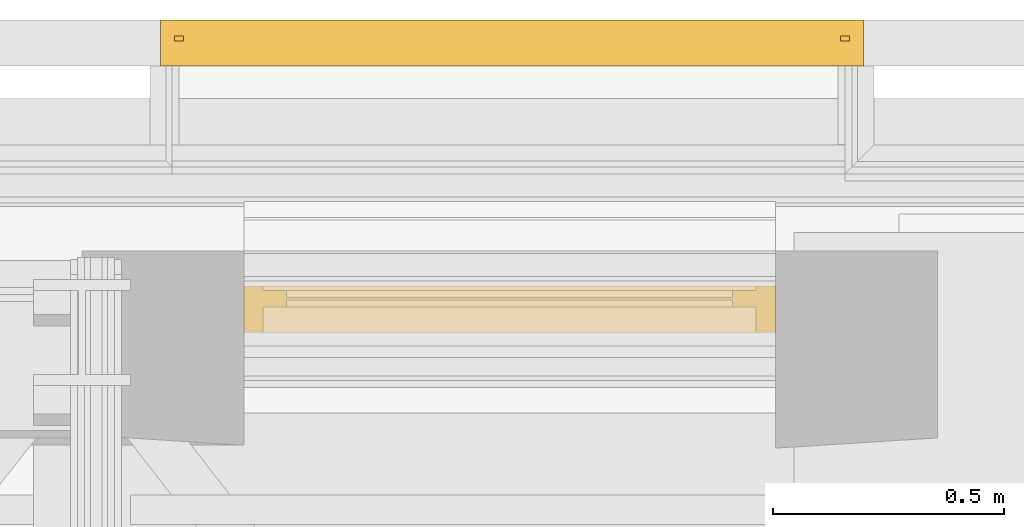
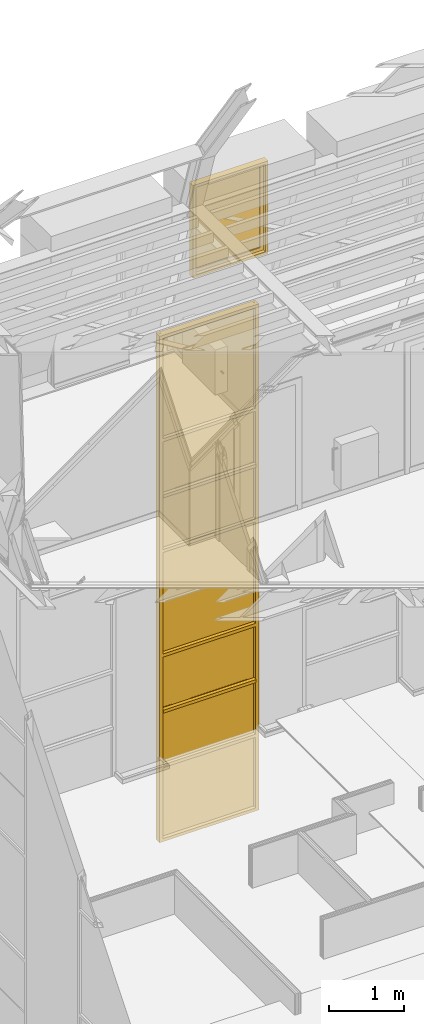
# One storey, part 126 of 183: 1 curtain wall, 1 window.
"""IFC2X3 building model written with IfcOpenShell, lengths in metres."""

from ifc_helpers import new_model, entity, si_unit, converted_unit, derived_unit, money_unit, direction, frame, origin_with_axes, place, context, subcontext, project, spatial, faceted_brep, material, type_object, element, save


model = new_model("IFC2X3")

# Units and contexts
model_context = context("Model", 3, precision=1e-05, world=origin_with_axes(), true_north=direction((0.0, 1.0)))
body_context = subcontext(model_context, "Body", "Model", "MODEL_VIEW", scale=1.0)
ifc_project = project(units=[si_unit("LENGTHUNIT", "METRE"), si_unit("AREAUNIT", "SQUARE_METRE"), si_unit("VOLUMEUNIT", "CUBIC_METRE"), si_unit("ABSORBEDDOSEUNIT", "GRAY"), si_unit("AMOUNTOFSUBSTANCEUNIT", "MOLE"), si_unit("DOSEEQUIVALENTUNIT", "SIEVERT"), si_unit("ELECTRICCAPACITANCEUNIT", "FARAD"), si_unit("ELECTRICCHARGEUNIT", "COULOMB"), si_unit("ELECTRICCONDUCTANCEUNIT", "SIEMENS"), si_unit("ELECTRICCURRENTUNIT", "AMPERE"), si_unit("ELECTRICRESISTANCEUNIT", "OHM"), si_unit("ELECTRICVOLTAGEUNIT", "VOLT"), si_unit("ENERGYUNIT", "JOULE"), si_unit("FORCEUNIT", "NEWTON"), si_unit("FREQUENCYUNIT", "HERTZ"), si_unit("ILLUMINANCEUNIT", "LUX"), si_unit("INDUCTANCEUNIT", "HENRY"), si_unit("LUMINOUSFLUXUNIT", "LUMEN"), si_unit("LUMINOUSINTENSITYUNIT", "CANDELA"), si_unit("MAGNETICFLUXDENSITYUNIT", "TESLA"), si_unit("MAGNETICFLUXUNIT", "WEBER"), si_unit("MASSUNIT", "GRAM"), converted_unit("PLANEANGLEUNIT", "degree", entity("IfcReal", 0.0174532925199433), si_unit("PLANEANGLEUNIT", "RADIAN"), dimensions=[0, 0, 0, 0, 0, 0, 0]), si_unit("POWERUNIT", "WATT"), si_unit("PRESSUREUNIT", "PASCAL"), si_unit("RADIOACTIVITYUNIT", "BECQUEREL"), si_unit("SOLIDANGLEUNIT", "STERADIAN"), si_unit("THERMODYNAMICTEMPERATUREUNIT", "KELVIN"), si_unit("TIMEUNIT", "SECOND"), derived_unit("ACCELERATIONUNIT", [(si_unit("LENGTHUNIT", "METRE"), 1), (si_unit("TIMEUNIT", "SECOND"), -2)]), derived_unit("ANGULARVELOCITYUNIT", [(converted_unit("PLANEANGLEUNIT", "degree", entity("IfcReal", 0.0174532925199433), si_unit("PLANEANGLEUNIT", "RADIAN"), dimensions=[0, 0, 0, 0, 0, 0, 0]), 1), (si_unit("TIMEUNIT", "SECOND"), -1)]), derived_unit("CURVATUREUNIT", [(converted_unit("PLANEANGLEUNIT", "degree", entity("IfcReal", 0.0174532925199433), si_unit("PLANEANGLEUNIT", "RADIAN"), dimensions=[0, 0, 0, 0, 0, 0, 0]), 1), (si_unit("LENGTHUNIT", "METRE"), -1)]), derived_unit("DYNAMICVISCOSITYUNIT", [(si_unit("PRESSUREUNIT", "PASCAL"), 1), (si_unit("TIMEUNIT", "SECOND"), 1)]), derived_unit("HEATFLUXDENSITYUNIT", [(si_unit("POWERUNIT", "WATT"), 1), (si_unit("LENGTHUNIT", "METRE"), -2)]), derived_unit("HEATINGVALUEUNIT", [(si_unit("ENERGYUNIT", "JOULE"), 1), (si_unit("MASSUNIT", "GRAM"), -1)]), derived_unit("INTEGERCOUNTRATEUNIT", [(si_unit("TIMEUNIT", "SECOND"), -1)]), derived_unit("IONCONCENTRATIONUNIT", [(si_unit("MASSUNIT", "GRAM"), 1), (si_unit("VOLUMEUNIT", "CUBIC_METRE"), -1)]), derived_unit("ISOTHERMALMOISTURECAPACITYUNIT", [(si_unit("VOLUMEUNIT", "CUBIC_METRE"), 1), (si_unit("MASSUNIT", "GRAM"), -1)]), derived_unit("KINEMATICVISCOSITYUNIT", [(si_unit("AREAUNIT", "SQUARE_METRE"), 1), (si_unit("TIMEUNIT", "SECOND"), -1)]), derived_unit("LINEARFORCEUNIT", [(si_unit("FORCEUNIT", "NEWTON"), 1), (si_unit("LENGTHUNIT", "METRE"), -1)]), derived_unit("LINEARMOMENTUNIT", [(si_unit("FORCEUNIT", "NEWTON"), 1), (si_unit("LENGTHUNIT", "METRE"), -1)]), derived_unit("LINEARSTIFFNESSUNIT", [(si_unit("FORCEUNIT", "NEWTON"), 1), (si_unit("LENGTHUNIT", "METRE"), -1)]), derived_unit("LINEARVELOCITYUNIT", [(si_unit("LENGTHUNIT", "METRE"), 1), (si_unit("TIMEUNIT", "SECOND"), -1)]), derived_unit("LUMINOUSINTENSITYDISTRIBUTIONUNIT", [(si_unit("LUMINOUSINTENSITYUNIT", "CANDELA"), 1), (si_unit("LUMINOUSFLUXUNIT", "LUMEN"), -1)]), derived_unit("MASSDENSITYUNIT", [(si_unit("MASSUNIT", "GRAM"), 1), (si_unit("VOLUMEUNIT", "CUBIC_METRE"), -1)]), derived_unit("MASSFLOWRATEUNIT", [(si_unit("MASSUNIT", "GRAM"), 1), (si_unit("TIMEUNIT", "SECOND"), -1)]), derived_unit("MASSPERLENGTHUNIT", [(si_unit("MASSUNIT", "GRAM"), 1), (si_unit("LENGTHUNIT", "METRE"), -1)]), derived_unit("MODULUSOFELASTICITYUNIT", [(si_unit("FORCEUNIT", "NEWTON"), 1), (si_unit("AREAUNIT", "SQUARE_METRE"), -1)]), derived_unit("MODULUSOFLINEARSUBGRADEREACTIONUNIT", [(si_unit("FORCEUNIT", "NEWTON"), 1), (si_unit("LENGTHUNIT", "METRE"), -2)]), derived_unit("MODULUSOFROTATIONALSUBGRADEREACTIONUNIT", [(si_unit("FORCEUNIT", "NEWTON"), 1), (si_unit("LENGTHUNIT", "METRE"), 1)]), derived_unit("MODULUSOFSUBGRADEREACTIONUNIT", [(si_unit("FORCEUNIT", "NEWTON"), 1), (si_unit("VOLUMEUNIT", "CUBIC_METRE"), -1)]), derived_unit("MOISTUREDIFFUSIVITYUNIT", [(si_unit("VOLUMEUNIT", "CUBIC_METRE"), 1), (si_unit("TIMEUNIT", "SECOND"), -1)]), derived_unit("MOLECULARWEIGHTUNIT", [(si_unit("MASSUNIT", "GRAM"), 1), (si_unit("AMOUNTOFSUBSTANCEUNIT", "MOLE"), -1)]), derived_unit("PLANARFORCEUNIT", [(si_unit("FORCEUNIT", "NEWTON"), 1), (si_unit("LENGTHUNIT", "METRE"), -2)]), derived_unit("ROTATIONALFREQUENCYUNIT", [(si_unit("TIMEUNIT", "SECOND"), -1)]), derived_unit("ROTATIONALMASSUNIT", [(si_unit("MASSUNIT", "GRAM"), 1), (si_unit("LENGTHUNIT", "METRE"), 2)]), derived_unit("ROTATIONALSTIFFNESSUNIT", [(si_unit("FORCEUNIT", "NEWTON"), 1), (si_unit("LENGTHUNIT", "METRE"), 1), (converted_unit("PLANEANGLEUNIT", "degree", entity("IfcReal", 0.0174532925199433), si_unit("PLANEANGLEUNIT", "RADIAN"), dimensions=[0, 0, 0, 0, 0, 0, 0]), -1)]), derived_unit("SECTIONAREAINTEGRALUNIT", [(si_unit("LENGTHUNIT", "METRE"), 5)]), derived_unit("SECTIONMODULUSUNIT", [(si_unit("LENGTHUNIT", "METRE"), 3)]), derived_unit("SHEARMODULUSUNIT", [(si_unit("FORCEUNIT", "NEWTON"), 1), (si_unit("AREAUNIT", "SQUARE_METRE"), -1)]), derived_unit("SOUNDPOWERUNIT", [(si_unit("ENERGYUNIT", "JOULE"), 1), (si_unit("TIMEUNIT", "SECOND"), -1)]), derived_unit("SPECIFICHEATCAPACITYUNIT", [(si_unit("FORCEUNIT", "NEWTON"), 1), (si_unit("MASSUNIT", "GRAM"), -1), (si_unit("THERMODYNAMICTEMPERATUREUNIT", "KELVIN"), -1)]), derived_unit("TEMPERATUREGRADIENTUNIT", [(si_unit("THERMODYNAMICTEMPERATUREUNIT", "KELVIN"), 1), (si_unit("LENGTHUNIT", "METRE"), -1)]), derived_unit("THERMALADMITTANCEUNIT", [(si_unit("POWERUNIT", "WATT"), 1), (si_unit("AREAUNIT", "SQUARE_METRE"), -1), (si_unit("THERMODYNAMICTEMPERATUREUNIT", "KELVIN"), -1)]), derived_unit("THERMALCONDUCTANCEUNIT", [(si_unit("POWERUNIT", "WATT"), 1), (si_unit("LENGTHUNIT", "METRE"), -1), (si_unit("THERMODYNAMICTEMPERATUREUNIT", "KELVIN"), -1)]), derived_unit("THERMALEXPANSIONCOEFFICIENTUNIT", [(si_unit("THERMODYNAMICTEMPERATUREUNIT", "KELVIN"), -1)]), derived_unit("THERMALRESISTANCEUNIT", [(si_unit("AREAUNIT", "SQUARE_METRE"), 1), (si_unit("POWERUNIT", "WATT"), -1)]), derived_unit("THERMALTRANSMITTANCEUNIT", [(si_unit("POWERUNIT", "WATT"), 1), (si_unit("AREAUNIT", "SQUARE_METRE"), -1), (si_unit("THERMODYNAMICTEMPERATUREUNIT", "KELVIN"), -1)]), derived_unit("TORQUEUNIT", [(si_unit("FORCEUNIT", "NEWTON"), 1), (si_unit("LENGTHUNIT", "METRE"), 1)]), derived_unit("VAPORPERMEABILITYUNIT", [(si_unit("MASSUNIT", "GRAM"), 1), (si_unit("TIMEUNIT", "SECOND"), -1)]), derived_unit("VOLUMETRICFLOWRATEUNIT", [(si_unit("VOLUMEUNIT", "CUBIC_METRE"), 1), (si_unit("TIMEUNIT", "SECOND"), -1)]), derived_unit("WARPINGCONSTANTUNIT", [(si_unit("LENGTHUNIT", "METRE"), 6)]), derived_unit("WARPINGMOMENTUNIT", [(si_unit("FORCEUNIT", "NEWTON"), 1), (si_unit("LENGTHUNIT", "METRE"), 2)]), money_unit("GBP")], contexts=[model_context])

# Site, building, storey
site_placement = place(None, origin_with_axes())
site = spatial("IfcSite", under=ifc_project, at=site_placement, Name="Site", CompositionType="ELEMENT")
building_placement = place(site_placement, origin_with_axes())
building = spatial("IfcBuilding", under=site, at=building_placement, Name="Building01", CompositionType="ELEMENT")
storey_placement = place(building_placement, frame((0.0, 0.0, 5.15), z_axis=(0.0, 0.0, 1.0), x_axis=(1.0, 0.0, 0.0)))
storey = spatial("IfcBuildingStorey", under=building, at=storey_placement, Name="1F", CompositionType="ELEMENT", Elevation=5.15)

# Curtain wall
ifc_material_1 = material(Name="A-CurtainWall_Frame")
curtain_wall_type = type_object("IfcCurtainWallType", Name="Pattern - Maximum Spacing", PredefinedType="NOTDEFINED")
curtain_wall_placement = place(storey_placement, frame((0.0, 0.0, -5.15), z_axis=(0.0, 0.0, 1.0), x_axis=(1.0, 0.0, 0.0)))
element("IfcCurtainWall", 1, at=curtain_wall_placement, inside=storey, type_object=curtain_wall_type, material=ifc_material_1, Name="10", ObjectType="Pattern - Maximum Spacing", context=body_context, shape_type="Brep", body=[
    faceted_brep([(6.57, 14.855, 7.716517), (6.57, 14.865, 7.716517), (5.11, 14.865, 7.716517), (5.11, 14.855, 7.716517), (6.57, 14.855, 6.530918), (6.57, 14.865, 6.530918), (5.11, 14.855, 6.530918), (5.11, 14.865, 6.530918)], [[[0, 1, 2, 3]], [[4, 5, 1, 0]], [[6, 7, 5, 4]], [[3, 2, 7, 6]], [[1, 5, 7, 2]], [[3, 6, 4, 0]]]),
    faceted_brep([(5.08, 14.9, 6.500918), (5.13, 14.9, 6.500918), (5.13, 14.865, 6.500918), (5.11, 14.865, 6.500918), (5.11, 14.855, 6.500918), (5.13, 14.855, 6.500918), (5.13, 14.8, 6.500918), (5.08, 14.8, 6.500918), (5.08, 14.8, 7.721517), (5.08, 14.9, 7.721517), (5.13, 14.9, 7.721517), (5.13, 14.865, 7.721517), (5.11, 14.865, 7.721517), (5.11, 14.855, 7.721517), (5.13, 14.855, 7.721517), (5.13, 14.8, 7.721517)], [[[0, 1, 2, 3, 4, 5, 6, 7]], [[7, 8, 9, 0]], [[0, 9, 10, 1]], [[1, 10, 11, 2]], [[2, 11, 12, 3]], [[3, 12, 13, 4]], [[4, 13, 14, 5]], [[5, 14, 15, 6]], [[6, 15, 8, 7]]]),
    faceted_brep([(6.55, 14.9, 6.550918), (6.55, 14.865, 6.550918), (6.55, 14.865, 6.530918), (6.55, 14.855, 6.530918), (6.55, 14.855, 6.550918), (6.55, 14.8, 6.550918), (6.55, 14.8, 6.500918), (6.55, 14.9, 6.500918), (5.13, 14.9, 6.500918), (5.13, 14.9, 6.550918), (5.13, 14.865, 6.550918), (5.13, 14.865, 6.530918), (5.13, 14.855, 6.530918), (5.13, 14.855, 6.550918), (5.13, 14.8, 6.550918), (5.13, 14.8, 6.500918)], [[[0, 1, 2, 3, 4, 5, 6, 7]], [[7, 8, 9, 0]], [[0, 9, 10, 1]], [[1, 10, 11, 2]], [[2, 11, 12, 3]], [[3, 12, 13, 4]], [[4, 13, 14, 5]], [[5, 14, 15, 6]], [[6, 15, 8, 7]], [[8, 15, 14, 13, 12, 11, 10, 9]]]),
    faceted_brep([(6.6, 14.9, 6.500918), (6.6, 14.9, 7.721517), (6.6, 14.8, 7.721517), (6.6, 14.8, 6.500918), (6.55, 14.9, 6.500918), (6.55, 14.9, 7.721517), (6.55, 14.865, 6.500918), (6.55, 14.865, 7.721517), (6.57, 14.865, 6.500918), (6.57, 14.865, 7.721517), (6.57, 14.855, 6.500918), (6.57, 14.855, 7.721517), (6.55, 14.855, 6.500918), (6.55, 14.855, 7.721517), (6.55, 14.8, 6.500918), (6.55, 14.8, 7.721517)], [[[0, 1, 2, 3]], [[4, 5, 1, 0]], [[6, 7, 5, 4]], [[8, 9, 7, 6]], [[10, 11, 9, 8]], [[12, 13, 11, 10]], [[14, 15, 13, 12]], [[3, 2, 15, 14]], [[14, 12, 10, 8, 6, 4, 0, 3]]]),
    faceted_brep([(5.13, 14.855, 7.726517), (5.13, 14.865, 7.726517), (5.13, 14.865, 7.746517), (5.13, 14.9, 7.746517), (5.13, 14.9, 7.696517), (5.13, 14.865, 7.696517), (5.13, 14.865, 7.716517), (5.13, 14.855, 7.716517), (5.13, 14.855, 7.696517), (5.13, 14.8, 7.696517), (5.13, 14.8, 7.746517), (5.13, 14.855, 7.746517), (6.55, 14.855, 7.746517), (6.55, 14.855, 7.726517), (6.55, 14.865, 7.726517), (6.55, 14.865, 7.746517), (6.55, 14.9, 7.746517), (6.55, 14.9, 7.696517), (6.55, 14.865, 7.696517), (6.55, 14.855, 7.716517), (6.55, 14.855, 7.696517), (6.55, 14.865, 7.716517), (6.55, 14.8, 7.746517), (6.55, 14.8, 7.696517)], [[[0, 1, 2, 3, 4, 5, 6, 7, 8, 9, 10, 11]], [[11, 12, 13, 0]], [[0, 13, 14, 1]], [[1, 14, 15, 2]], [[2, 15, 16, 3]], [[3, 16, 17, 4]], [[4, 17, 18, 5]], [[7, 19, 20, 8]], [[6, 21, 19, 7]], [[5, 18, 21, 6]], [[10, 22, 12, 11]], [[9, 23, 22, 10]], [[8, 20, 23, 9]], [[20, 19, 21, 18, 17, 16, 15, 14, 13, 12, 22, 23]]]),
    faceted_brep([(6.57, 14.85, 8.613217), (6.57, 14.87, 8.613217), (5.11, 14.87, 8.613217), (5.11, 14.85, 8.613217), (6.57, 14.85, 7.726517), (6.57, 14.87, 7.726517), (5.11, 14.85, 7.726517), (5.11, 14.87, 7.726517)], [[[0, 1, 2, 3]], [[4, 5, 1, 0]], [[6, 7, 5, 4]], [[3, 2, 7, 6]], [[1, 5, 7, 2]], [[3, 6, 4, 0]]]),
    faceted_brep([(5.13, 14.8, 8.618217), (5.13, 14.8, 7.721517), (5.13, 14.855, 7.721517), (5.13, 14.855, 8.618217), (5.08, 14.8, 8.618217), (5.08, 14.8, 7.721517), (5.08, 14.9, 8.618217), (5.08, 14.9, 7.721517), (5.13, 14.9, 8.618217), (5.13, 14.9, 7.721517), (5.13, 14.865, 8.618217), (5.13, 14.865, 7.721517), (5.11, 14.865, 8.618217), (5.11, 14.865, 7.721517), (5.11, 14.855, 8.618217), (5.11, 14.855, 7.721517)], [[[0, 1, 2, 3]], [[4, 5, 1, 0]], [[6, 7, 5, 4]], [[8, 9, 7, 6]], [[10, 11, 9, 8]], [[12, 13, 11, 10]], [[14, 15, 13, 12]], [[3, 2, 15, 14]]]),
    faceted_brep([(6.6, 14.9, 7.721517), (6.6, 14.9, 8.618217), (6.6, 14.8, 8.618217), (6.6, 14.8, 7.721517), (6.55, 14.9, 7.721517), (6.55, 14.9, 8.618217), (6.55, 14.865, 7.721517), (6.55, 14.865, 8.618217), (6.57, 14.865, 7.721517), (6.57, 14.865, 8.618217), (6.57, 14.855, 7.721517), (6.57, 14.855, 8.618217), (6.55, 14.855, 7.721517), (6.55, 14.855, 8.618217), (6.55, 14.8, 7.721517), (6.55, 14.8, 8.618217)], [[[0, 1, 2, 3]], [[4, 5, 1, 0]], [[6, 7, 5, 4]], [[8, 9, 7, 6]], [[10, 11, 9, 8]], [[12, 13, 11, 10]], [[14, 15, 13, 12]], [[3, 2, 15, 14]]]),
    faceted_brep([(5.13, 14.8375, 8.623217), (5.13, 14.8475, 8.623217), (5.13, 14.8475, 8.643217), (5.13, 14.8825, 8.643217), (5.13, 14.8825, 8.593217), (5.13, 14.8475, 8.593217), (5.13, 14.8475, 8.613217), (5.13, 14.8375, 8.613217), (5.13, 14.8375, 8.593217), (5.13, 14.7825, 8.593217), (5.13, 14.7825, 8.643217), (5.13, 14.8375, 8.643217), (6.55, 14.8375, 8.643217), (6.55, 14.8375, 8.623217), (6.55, 14.8475, 8.623217), (6.55, 14.8475, 8.643217), (6.55, 14.8825, 8.643217), (6.55, 14.8825, 8.593217), (6.55, 14.8475, 8.593217), (6.55, 14.8375, 8.613217), (6.55, 14.8375, 8.593217), (6.55, 14.8475, 8.613217), (6.55, 14.7825, 8.643217), (6.55, 14.7825, 8.593217)], [[[0, 1, 2, 3, 4, 5, 6, 7, 8, 9, 10, 11]], [[11, 12, 13, 0]], [[0, 13, 14, 1]], [[1, 14, 15, 2]], [[2, 15, 16, 3]], [[3, 16, 17, 4]], [[4, 17, 18, 5]], [[7, 19, 20, 8]], [[6, 21, 19, 7]], [[5, 18, 21, 6]], [[10, 22, 12, 11]], [[9, 23, 22, 10]], [[8, 20, 23, 9]], [[20, 19, 21, 18, 17, 16, 15, 14, 13, 12, 22, 23]]]),
    faceted_brep([(6.57, 14.85, 9.509916), (6.57, 14.87, 9.509916), (5.11, 14.87, 9.509916), (5.11, 14.85, 9.509916), (6.57, 14.85, 8.623217), (6.57, 14.87, 8.623217), (5.11, 14.85, 8.623217), (5.11, 14.87, 8.623217)], [[[0, 1, 2, 3]], [[4, 5, 1, 0]], [[6, 7, 5, 4]], [[3, 2, 7, 6]], [[1, 5, 7, 2]], [[3, 6, 4, 0]]]),
    faceted_brep([(5.13, 14.8, 9.514916), (5.13, 14.8, 8.618217), (5.13, 14.855, 8.618217), (5.13, 14.855, 9.514916), (5.08, 14.8, 9.514916), (5.08, 14.8, 8.618217), (5.08, 14.9, 9.514916), (5.08, 14.9, 8.618217), (5.13, 14.9, 9.514916), (5.13, 14.9, 8.618217), (5.13, 14.865, 9.514916), (5.13, 14.865, 8.618217), (5.11, 14.865, 9.514916), (5.11, 14.865, 8.618217), (5.11, 14.855, 9.514916), (5.11, 14.855, 8.618217)], [[[0, 1, 2, 3]], [[4, 5, 1, 0]], [[6, 7, 5, 4]], [[8, 9, 7, 6]], [[10, 11, 9, 8]], [[12, 13, 11, 10]], [[14, 15, 13, 12]], [[3, 2, 15, 14]]]),
    faceted_brep([(6.6, 14.9, 8.618217), (6.6, 14.9, 9.514916), (6.6, 14.8, 9.514916), (6.6, 14.8, 8.618217), (6.55, 14.9, 8.618217), (6.55, 14.9, 9.514916), (6.55, 14.865, 8.618217), (6.55, 14.865, 9.514916), (6.57, 14.865, 8.618217), (6.57, 14.865, 9.514916), (6.57, 14.855, 8.618217), (6.57, 14.855, 9.514916), (6.55, 14.855, 8.618217), (6.55, 14.855, 9.514916), (6.55, 14.8, 8.618217), (6.55, 14.8, 9.514916)], [[[0, 1, 2, 3]], [[4, 5, 1, 0]], [[6, 7, 5, 4]], [[8, 9, 7, 6]], [[10, 11, 9, 8]], [[12, 13, 11, 10]], [[14, 15, 13, 12]], [[3, 2, 15, 14]]]),
    faceted_brep([(5.13, 14.855, 9.519916), (5.13, 14.865, 9.519916), (5.13, 14.865, 9.539916), (5.13, 14.9, 9.539916), (5.13, 14.9, 9.489916), (5.13, 14.865, 9.489916), (5.13, 14.865, 9.509916), (5.13, 14.855, 9.509916), (5.13, 14.855, 9.489916), (5.13, 14.8, 9.489916), (5.13, 14.8, 9.539916), (5.13, 14.855, 9.539916), (6.55, 14.855, 9.539916), (6.55, 14.855, 9.519916), (6.55, 14.865, 9.519916), (6.55, 14.865, 9.539916), (6.55, 14.9, 9.539916), (6.55, 14.9, 9.489916), (6.55, 14.865, 9.489916), (6.55, 14.855, 9.509916), (6.55, 14.855, 9.489916), (6.55, 14.865, 9.509916), (6.55, 14.8, 9.539916), (6.55, 14.8, 9.489916)], [[[0, 1, 2, 3, 4, 5, 6, 7, 8, 9, 10, 11]], [[11, 12, 13, 0]], [[0, 13, 14, 1]], [[1, 14, 15, 2]], [[2, 15, 16, 3]], [[3, 16, 17, 4]], [[4, 17, 18, 5]], [[7, 19, 20, 8]], [[6, 21, 19, 7]], [[5, 18, 21, 6]], [[10, 22, 12, 11]], [[9, 23, 22, 10]], [[8, 20, 23, 9]], [[20, 19, 21, 18, 17, 16, 15, 14, 13, 12, 22, 23]]]),
    faceted_brep([(6.57, 14.855, 11.203681), (6.57, 14.865, 11.203681), (5.11, 14.865, 11.203681), (5.11, 14.855, 11.203681), (6.57, 14.855, 9.519916), (6.57, 14.865, 9.519916), (5.11, 14.855, 9.519916), (5.11, 14.865, 9.519916)], [[[0, 1, 2, 3]], [[4, 5, 1, 0]], [[6, 7, 5, 4]], [[3, 2, 7, 6]], [[1, 5, 7, 2]], [[3, 6, 4, 0]]]),
    faceted_brep([(5.13, 14.8, 11.208681), (5.13, 14.8, 9.514916), (5.13, 14.855, 9.514916), (5.13, 14.855, 11.208681), (5.08, 14.8, 11.208681), (5.08, 14.8, 9.514916), (5.08, 14.9, 11.208681), (5.08, 14.9, 9.514916), (5.13, 14.9, 11.208681), (5.13, 14.9, 9.514916), (5.13, 14.865, 11.208681), (5.13, 14.865, 9.514916), (5.11, 14.865, 11.208681), (5.11, 14.865, 9.514916), (5.11, 14.855, 11.208681), (5.11, 14.855, 9.514916)], [[[0, 1, 2, 3]], [[4, 5, 1, 0]], [[6, 7, 5, 4]], [[8, 9, 7, 6]], [[10, 11, 9, 8]], [[12, 13, 11, 10]], [[14, 15, 13, 12]], [[3, 2, 15, 14]]]),
    faceted_brep([(6.6, 14.9, 9.514916), (6.6, 14.9, 11.208681), (6.6, 14.8, 11.208681), (6.6, 14.8, 9.514916), (6.55, 14.9, 9.514916), (6.55, 14.9, 11.208681), (6.55, 14.865, 9.514916), (6.55, 14.865, 11.208681), (6.57, 14.865, 9.514916), (6.57, 14.865, 11.208681), (6.57, 14.855, 9.514916), (6.57, 14.855, 11.208681), (6.55, 14.855, 9.514916), (6.55, 14.855, 11.208681), (6.55, 14.8, 9.514916), (6.55, 14.8, 11.208681)], [[[0, 1, 2, 3]], [[4, 5, 1, 0]], [[6, 7, 5, 4]], [[8, 9, 7, 6]], [[10, 11, 9, 8]], [[12, 13, 11, 10]], [[14, 15, 13, 12]], [[3, 2, 15, 14]]]),
    faceted_brep([(5.13, 14.855, 11.213681), (5.13, 14.865, 11.213681), (5.13, 14.865, 11.233681), (5.13, 14.9, 11.233681), (5.13, 14.9, 11.183681), (5.13, 14.865, 11.183681), (5.13, 14.865, 11.203681), (5.13, 14.855, 11.203681), (5.13, 14.855, 11.183681), (5.13, 14.8, 11.183681), (5.13, 14.8, 11.233681), (5.13, 14.855, 11.233681), (6.55, 14.855, 11.233681), (6.55, 14.855, 11.213681), (6.55, 14.865, 11.213681), (6.55, 14.865, 11.233681), (6.55, 14.9, 11.233681), (6.55, 14.9, 11.183681), (6.55, 14.865, 11.183681), (6.55, 14.855, 11.203681), (6.55, 14.855, 11.183681), (6.55, 14.865, 11.203681), (6.55, 14.8, 11.233681), (6.55, 14.8, 11.183681)], [[[0, 1, 2, 3, 4, 5, 6, 7, 8, 9, 10, 11]], [[11, 12, 13, 0]], [[0, 13, 14, 1]], [[1, 14, 15, 2]], [[2, 15, 16, 3]], [[3, 16, 17, 4]], [[4, 17, 18, 5]], [[7, 19, 20, 8]], [[6, 21, 19, 7]], [[5, 18, 21, 6]], [[10, 22, 12, 11]], [[9, 23, 22, 10]], [[8, 20, 23, 9]], [[20, 19, 21, 18, 17, 16, 15, 14, 13, 12, 22, 23]]]),
    faceted_brep([(6.57, 14.85, 12.10038), (6.57, 14.87, 12.10038), (5.11, 14.87, 12.10038), (5.11, 14.85, 12.10038), (6.57, 14.85, 11.213681), (6.57, 14.87, 11.213681), (5.11, 14.85, 11.213681), (5.11, 14.87, 11.213681)], [[[0, 1, 2, 3]], [[4, 5, 1, 0]], [[6, 7, 5, 4]], [[3, 2, 7, 6]], [[1, 5, 7, 2]], [[3, 6, 4, 0]]]),
    faceted_brep([(5.13, 14.8, 12.10538), (5.13, 14.8, 11.208681), (5.13, 14.855, 11.208681), (5.13, 14.855, 12.10538), (5.08, 14.8, 12.10538), (5.08, 14.8, 11.208681), (5.08, 14.9, 12.10538), (5.08, 14.9, 11.208681), (5.13, 14.9, 12.10538), (5.13, 14.9, 11.208681), (5.13, 14.865, 12.10538), (5.13, 14.865, 11.208681), (5.11, 14.865, 12.10538), (5.11, 14.865, 11.208681), (5.11, 14.855, 12.10538), (5.11, 14.855, 11.208681)], [[[0, 1, 2, 3]], [[4, 5, 1, 0]], [[6, 7, 5, 4]], [[8, 9, 7, 6]], [[10, 11, 9, 8]], [[12, 13, 11, 10]], [[14, 15, 13, 12]], [[3, 2, 15, 14]]]),
    faceted_brep([(6.6, 14.9, 11.208681), (6.6, 14.9, 12.10538), (6.6, 14.8, 12.10538), (6.6, 14.8, 11.208681), (6.55, 14.9, 11.208681), (6.55, 14.9, 12.10538), (6.55, 14.865, 11.208681), (6.55, 14.865, 12.10538), (6.57, 14.865, 11.208681), (6.57, 14.865, 12.10538), (6.57, 14.855, 11.208681), (6.57, 14.855, 12.10538), (6.55, 14.855, 11.208681), (6.55, 14.855, 12.10538), (6.55, 14.8, 11.208681), (6.55, 14.8, 12.10538)], [[[0, 1, 2, 3]], [[4, 5, 1, 0]], [[6, 7, 5, 4]], [[8, 9, 7, 6]], [[10, 11, 9, 8]], [[12, 13, 11, 10]], [[14, 15, 13, 12]], [[3, 2, 15, 14]]]),
    faceted_brep([(5.13, 14.8375, 12.11038), (5.13, 14.8475, 12.11038), (5.13, 14.8475, 12.13038), (5.13, 14.8825, 12.13038), (5.13, 14.8825, 12.08038), (5.13, 14.8475, 12.08038), (5.13, 14.8475, 12.10038), (5.13, 14.8375, 12.10038), (5.13, 14.8375, 12.08038), (5.13, 14.7825, 12.08038), (5.13, 14.7825, 12.13038), (5.13, 14.8375, 12.13038), (6.55, 14.8375, 12.13038), (6.55, 14.8375, 12.11038), (6.55, 14.8475, 12.11038), (6.55, 14.8475, 12.13038), (6.55, 14.8825, 12.13038), (6.55, 14.8825, 12.08038), (6.55, 14.8475, 12.08038), (6.55, 14.8375, 12.10038), (6.55, 14.8375, 12.08038), (6.55, 14.8475, 12.10038), (6.55, 14.7825, 12.13038), (6.55, 14.7825, 12.08038)], [[[0, 1, 2, 3, 4, 5, 6, 7, 8, 9, 10, 11]], [[11, 12, 13, 0]], [[0, 13, 14, 1]], [[1, 14, 15, 2]], [[2, 15, 16, 3]], [[3, 16, 17, 4]], [[4, 17, 18, 5]], [[7, 19, 20, 8]], [[6, 21, 19, 7]], [[5, 18, 21, 6]], [[10, 22, 12, 11]], [[9, 23, 22, 10]], [[8, 20, 23, 9]], [[20, 19, 21, 18, 17, 16, 15, 14, 13, 12, 22, 23]]]),
    faceted_brep([(5.11, 14.855, 13.00708), (5.11, 14.865, 13.00708), (6.57, 14.865, 13.00708), (6.57, 14.855, 13.00708), (5.11, 14.855, 14.670918), (5.11, 14.865, 14.670918), (6.57, 14.855, 14.670918), (6.57, 14.865, 14.670918)], [[[0, 1, 2, 3]], [[4, 5, 1, 0]], [[6, 7, 5, 4]], [[3, 2, 7, 6]], [[1, 5, 7, 2]], [[3, 6, 4, 0]]]),
    faceted_brep([(6.6, 14.9, 14.700918), (6.55, 14.9, 14.700918), (6.55, 14.865, 14.700918), (6.57, 14.865, 14.700918), (6.57, 14.855, 14.700918), (6.55, 14.855, 14.700918), (6.55, 14.8, 14.700918), (6.6, 14.8, 14.700918), (6.6, 14.8, 13.00208), (6.6, 14.9, 13.00208), (6.55, 14.9, 13.00208), (6.55, 14.865, 13.00208), (6.57, 14.865, 13.00208), (6.57, 14.855, 13.00208), (6.55, 14.855, 13.00208), (6.55, 14.8, 13.00208)], [[[0, 1, 2, 3, 4, 5, 6, 7]], [[7, 8, 9, 0]], [[0, 9, 10, 1]], [[1, 10, 11, 2]], [[2, 11, 12, 3]], [[3, 12, 13, 4]], [[4, 13, 14, 5]], [[5, 14, 15, 6]], [[6, 15, 8, 7]]]),
    faceted_brep([(5.13, 14.865, 14.670918), (5.13, 14.855, 14.670918), (5.13, 14.855, 14.650918), (5.13, 14.8, 14.650918), (5.13, 14.8, 14.700918), (5.13, 14.9, 14.700918), (5.13, 14.9, 14.650918), (5.13, 14.865, 14.650918), (6.55, 14.865, 14.650918), (6.55, 14.865, 14.670918), (6.55, 14.855, 14.670918), (6.55, 14.855, 14.650918), (6.55, 14.8, 14.650918), (6.55, 14.8, 14.700918), (6.55, 14.9, 14.700918), (6.55, 14.9, 14.650918)], [[[0, 1, 2, 3, 4, 5, 6, 7]], [[7, 8, 9, 0]], [[0, 9, 10, 1]], [[1, 10, 11, 2]], [[2, 11, 12, 3]], [[3, 12, 13, 4]], [[4, 13, 14, 5]], [[5, 14, 15, 6]], [[6, 15, 8, 7]], [[8, 15, 14, 13, 12, 11, 10, 9]]]),
    faceted_brep([(5.08, 14.9, 14.700918), (5.08, 14.9, 13.00208), (5.08, 14.8, 13.00208), (5.08, 14.8, 14.700918), (5.13, 14.9, 14.700918), (5.13, 14.9, 13.00208), (5.13, 14.865, 14.700918), (5.13, 14.865, 13.00208), (5.11, 14.865, 14.700918), (5.11, 14.865, 13.00208), (5.11, 14.855, 14.700918), (5.11, 14.855, 13.00208), (5.13, 14.855, 14.700918), (5.13, 14.855, 13.00208), (5.13, 14.8, 14.700918), (5.13, 14.8, 13.00208)], [[[0, 1, 2, 3]], [[4, 5, 1, 0]], [[6, 7, 5, 4]], [[8, 9, 7, 6]], [[10, 11, 9, 8]], [[12, 13, 11, 10]], [[14, 15, 13, 12]], [[3, 2, 15, 14]], [[14, 12, 10, 8, 6, 4, 0, 3]]]),
    faceted_brep([(6.55, 14.865, 13.00708), (6.55, 14.855, 13.00708), (6.55, 14.855, 13.02708), (6.55, 14.8, 13.02708), (6.55, 14.8, 12.97708), (6.55, 14.855, 12.97708), (6.55, 14.855, 12.99708), (6.55, 14.865, 12.99708), (6.55, 14.865, 12.97708), (6.55, 14.9, 12.97708), (6.55, 14.9, 13.02708), (6.55, 14.865, 13.02708), (5.13, 14.865, 13.02708), (5.13, 14.865, 13.00708), (5.13, 14.855, 13.00708), (5.13, 14.855, 13.02708), (5.13, 14.8, 13.02708), (5.13, 14.8, 12.97708), (5.13, 14.855, 12.97708), (5.13, 14.865, 12.99708), (5.13, 14.865, 12.97708), (5.13, 14.855, 12.99708), (5.13, 14.9, 13.02708), (5.13, 14.9, 12.97708)], [[[0, 1, 2, 3, 4, 5, 6, 7, 8, 9, 10, 11]], [[11, 12, 13, 0]], [[0, 13, 14, 1]], [[1, 14, 15, 2]], [[2, 15, 16, 3]], [[3, 16, 17, 4]], [[4, 17, 18, 5]], [[7, 19, 20, 8]], [[6, 21, 19, 7]], [[5, 18, 21, 6]], [[10, 22, 12, 11]], [[9, 23, 22, 10]], [[8, 20, 23, 9]], [[20, 19, 21, 18, 17, 16, 15, 14, 13, 12, 22, 23]]]),
    faceted_brep([(6.57, 14.85, 12.99708), (6.57, 14.87, 12.99708), (5.11, 14.87, 12.99708), (5.11, 14.85, 12.99708), (6.57, 14.85, 12.11038), (6.57, 14.87, 12.11038), (5.11, 14.85, 12.11038), (5.11, 14.87, 12.11038)], [[[0, 1, 2, 3]], [[4, 5, 1, 0]], [[6, 7, 5, 4]], [[3, 2, 7, 6]], [[1, 5, 7, 2]], [[3, 6, 4, 0]]]),
    faceted_brep([(5.13, 14.8, 13.00208), (5.13, 14.8, 12.10538), (5.13, 14.855, 12.10538), (5.13, 14.855, 13.00208), (5.08, 14.8, 13.00208), (5.08, 14.8, 12.10538), (5.08, 14.9, 13.00208), (5.08, 14.9, 12.10538), (5.13, 14.9, 13.00208), (5.13, 14.9, 12.10538), (5.13, 14.865, 13.00208), (5.13, 14.865, 12.10538), (5.11, 14.865, 13.00208), (5.11, 14.865, 12.10538), (5.11, 14.855, 13.00208), (5.11, 14.855, 12.10538)], [[[0, 1, 2, 3]], [[4, 5, 1, 0]], [[6, 7, 5, 4]], [[8, 9, 7, 6]], [[10, 11, 9, 8]], [[12, 13, 11, 10]], [[14, 15, 13, 12]], [[3, 2, 15, 14]]]),
    faceted_brep([(6.6, 14.9, 12.10538), (6.6, 14.9, 13.00208), (6.6, 14.8, 13.00208), (6.6, 14.8, 12.10538), (6.55, 14.9, 12.10538), (6.55, 14.9, 13.00208), (6.55, 14.865, 12.10538), (6.55, 14.865, 13.00208), (6.57, 14.865, 12.10538), (6.57, 14.865, 13.00208), (6.57, 14.855, 12.10538), (6.57, 14.855, 13.00208), (6.55, 14.855, 12.10538), (6.55, 14.855, 13.00208), (6.55, 14.8, 12.10538), (6.55, 14.8, 13.00208)], [[[0, 1, 2, 3]], [[4, 5, 1, 0]], [[6, 7, 5, 4]], [[8, 9, 7, 6]], [[10, 11, 9, 8]], [[12, 13, 11, 10]], [[14, 15, 13, 12]], [[3, 2, 15, 14]]]),
])

# Space
space_placement = place(storey_placement, frame((1.009939, 13.890379, 9.81), z_axis=(0.0, 0.0, 1.0), x_axis=(0.0, -1.0, 0.0)))
space = spatial("IfcSpace", under=storey, at=space_placement, Name="26", CompositionType="ELEMENT", InteriorOrExteriorSpace="NOTDEFINED")

# Window
ifc_material_2 = material(Name="A_BSUK_Windows")
window_style = type_object("IfcWindowStyle", Name="A-Awning", ConstructionType="NOTDEFINED", OperationType="USERDEFINED", ParameterTakesPrecedence=False, Sizeable=False)
window_placement = place(storey_placement, frame((5.260024, 14.350061, 10.78), z_axis=(0.0, 0.0, 1.0), x_axis=(-1.0, 0.0, 0.0)))
element("IfcWindow", 2, at=window_placement, inside=space, type_object=window_style, material=ifc_material_2, Name="4.15", ObjectType="A-Awning", OverallHeight=1.50000000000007, OverallWidth=1.15000000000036, context=body_context, shape_type="Brep", body=[
    faceted_brep([(-1.108, 0.0254, 0.042), (-0.042, 0.0254, 0.042), (-0.042, 0.1254, 0.042), (-1.108, 0.1254, 0.042), (-1.108, 0.0254, 1.458), (-1.108, 0.1254, 1.458), (-0.042, 0.0254, 1.458), (-0.042, 0.1254, 1.458), (0.0, 0.0254, 0.0), (0.0, 0.0254, 1.5), (-1.15, 0.0254, 1.5), (-1.15, 0.0254, 0.0), (0.0, 0.1254, 1.5), (-1.15, 0.1254, 1.5), (-1.15, 0.1254, 0.0), (0.0, 0.1254, 0.0)], [[[0, 1, 2, 3]], [[4, 0, 3, 5]], [[6, 4, 5, 7]], [[8, 9, 10, 11], [4, 6, 1, 0]], [[1, 6, 7, 2]], [[12, 13, 10, 9]], [[14, 15, 8, 11]], [[13, 14, 11, 10]], [[13, 12, 15, 14], [2, 7, 5, 3]], [[15, 12, 9, 8]]]),
    faceted_brep([(-1.0572, 0.0354, 0.0928), (-0.0928, 0.0354, 0.0928), (-0.0928, 0.0704, 0.0928), (-1.0572, 0.0704, 0.0928), (-1.0572, 0.0354, 1.4072), (-1.0572, 0.0704, 1.4072), (-0.0928, 0.0354, 1.4072), (-0.0928, 0.0704, 1.4072), (-1.108, 0.0704, 1.458), (-0.042, 0.0704, 1.458), (-0.042, 0.0704, 0.042), (-1.108, 0.0704, 0.042), (-1.108, 0.0354, 1.458), (-0.042, 0.0354, 1.458), (-0.042, 0.0354, 0.042), (-1.108, 0.0354, 0.042)], [[[0, 1, 2, 3]], [[4, 0, 3, 5]], [[6, 4, 5, 7]], [[8, 9, 10, 11], [2, 7, 5, 3]], [[9, 8, 12, 13]], [[10, 9, 13, 14]], [[11, 10, 14, 15]], [[8, 11, 15, 12]], [[14, 13, 12, 15], [4, 6, 1, 0]], [[1, 6, 7, 2]]]),
    faceted_brep([(-0.0928, 0.049725, 0.0928), (-0.0928, 0.056075, 0.0928), (-0.0928, 0.056075, 1.4072), (-0.0928, 0.049725, 1.4072), (-1.0572, 0.049725, 1.4072), (-1.0572, 0.056075, 1.4072), (-1.0572, 0.056075, 0.0928), (-1.0572, 0.049725, 0.0928)], [[[0, 1, 2, 3]], [[4, 5, 6, 7]], [[3, 2, 5, 4]], [[3, 4, 7, 0]], [[7, 6, 1, 0]], [[1, 6, 5, 2]]]),
])

save(model, "model.ifc")
